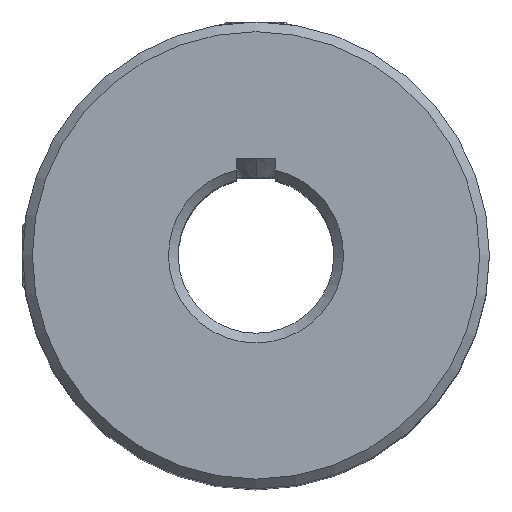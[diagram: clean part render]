
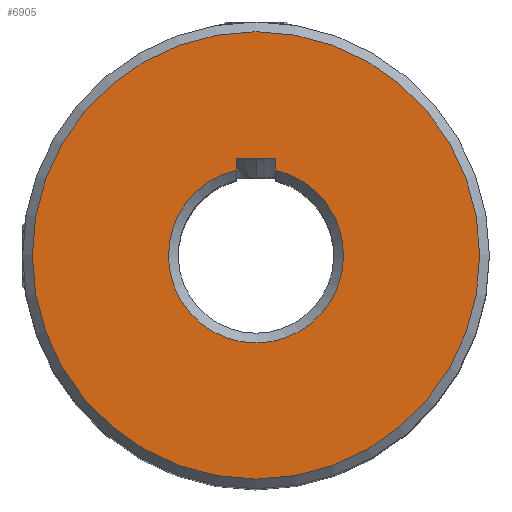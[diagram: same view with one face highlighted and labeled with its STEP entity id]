
A CAD part, top view. The second image highlights one B-rep face of the part: STEP entity #6905.
In plain terms, the highlighted planar face has unit normal (0, 0, 1).
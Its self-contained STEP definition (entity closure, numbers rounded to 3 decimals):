
#209 = DIRECTION ( 'NONE',  ( 0., 0., 1. ) ) ;
#408 = CARTESIAN_POINT ( 'NONE',  ( 0., 0., 17.5 ) ) ;
#699 = ORIENTED_EDGE ( 'NONE', *, *, #2388, .F. ) ;
#1004 = CIRCLE ( 'NONE', #1127, 4.5 ) ;
#1049 = CARTESIAN_POINT ( 'NONE',  ( 0., 0., 17.5 ) ) ;
#1127 = AXIS2_PLACEMENT_3D ( 'NONE', #1049, #2199, #4773 ) ;
#1173 = DIRECTION ( 'NONE',  ( 0., 0., 1. ) ) ;
#1186 = CARTESIAN_POINT ( 'NONE',  ( 1., 5., 17.5 ) ) ;
#1461 = DIRECTION ( 'NONE',  ( 1., 0., 0. ) ) ;
#1717 = VERTEX_POINT ( 'NONE', #7498 ) ;
#1807 = EDGE_CURVE ( 'NONE', #1717, #6199, #5969, .T. ) ;
#2095 = CARTESIAN_POINT ( 'NONE',  ( 11.5, 0., 17.5 ) ) ;
#2199 = DIRECTION ( 'NONE',  ( 0., 0., -1. ) ) ;
#2281 = CARTESIAN_POINT ( 'NONE',  ( -1., 4.387, 17.5 ) ) ;
#2388 = EDGE_CURVE ( 'NONE', #6881, #1717, #5236, .T. ) ;
#2410 = AXIS2_PLACEMENT_3D ( 'NONE', #408, #1173, #4704 ) ;
#2820 = VERTEX_POINT ( 'NONE', #2095 ) ;
#3116 = EDGE_LOOP ( 'NONE', ( #7062 ) ) ;
#3169 = VERTEX_POINT ( 'NONE', #7726 ) ;
#3293 = DIRECTION ( 'NONE',  ( -1., 0., 0. ) ) ;
#3371 = CARTESIAN_POINT ( 'NONE',  ( 0., 5., 17.5 ) ) ;
#3386 = DIRECTION ( 'NONE',  ( 0., 1., 0. ) ) ;
#3531 = EDGE_LOOP ( 'NONE', ( #4365, #699, #7603, #3882 ) ) ;
#3655 = FACE_OUTER_BOUND ( 'NONE', #3116, .T. ) ;
#3695 = FACE_BOUND ( 'NONE', #3531, .T. ) ;
#3860 = EDGE_CURVE ( 'NONE', #3169, #6881, #7624, .T. ) ;
#3882 = ORIENTED_EDGE ( 'NONE', *, *, #6119, .T. ) ;
#4365 = ORIENTED_EDGE ( 'NONE', *, *, #1807, .F. ) ;
#4640 = VECTOR ( 'NONE', #3386, 1000. ) ;
#4704 = DIRECTION ( 'NONE',  ( 1., 0., 0. ) ) ;
#4773 = DIRECTION ( 'NONE',  ( 1., 0., 0. ) ) ;
#4797 = CARTESIAN_POINT ( 'NONE',  ( -1., 0., 17.5 ) ) ;
#5168 = CARTESIAN_POINT ( 'NONE',  ( 1., 0., 17.5 ) ) ;
#5236 = LINE ( 'NONE', #3371, #6750 ) ;
#5307 = EDGE_CURVE ( 'NONE', #2820, #2820, #5415, .T. ) ;
#5415 = CIRCLE ( 'NONE', #7334, 11.5 ) ;
#5449 = DIRECTION ( 'NONE',  ( 0., -1., 0. ) ) ;
#5766 = CARTESIAN_POINT ( 'NONE',  ( 0., 0., 17.5 ) ) ;
#5969 = LINE ( 'NONE', #4797, #5974 ) ;
#5974 = VECTOR ( 'NONE', #5449, 1000. ) ;
#6119 = EDGE_CURVE ( 'NONE', #3169, #6199, #1004, .T. ) ;
#6123 = PLANE ( 'NONE',  #2410 ) ;
#6199 = VERTEX_POINT ( 'NONE', #2281 ) ;
#6750 = VECTOR ( 'NONE', #3293, 1000. ) ;
#6881 = VERTEX_POINT ( 'NONE', #1186 ) ;
#6905 = ADVANCED_FACE ( 'NONE', ( #3695, #3655 ), #6123, .T. ) ;
#7062 = ORIENTED_EDGE ( 'NONE', *, *, #5307, .T. ) ;
#7334 = AXIS2_PLACEMENT_3D ( 'NONE', #5766, #209, #1461 ) ;
#7498 = CARTESIAN_POINT ( 'NONE',  ( -1., 5., 17.5 ) ) ;
#7603 = ORIENTED_EDGE ( 'NONE', *, *, #3860, .F. ) ;
#7624 = LINE ( 'NONE', #5168, #4640 ) ;
#7726 = CARTESIAN_POINT ( 'NONE',  ( 1., 4.387, 17.5 ) ) ;
